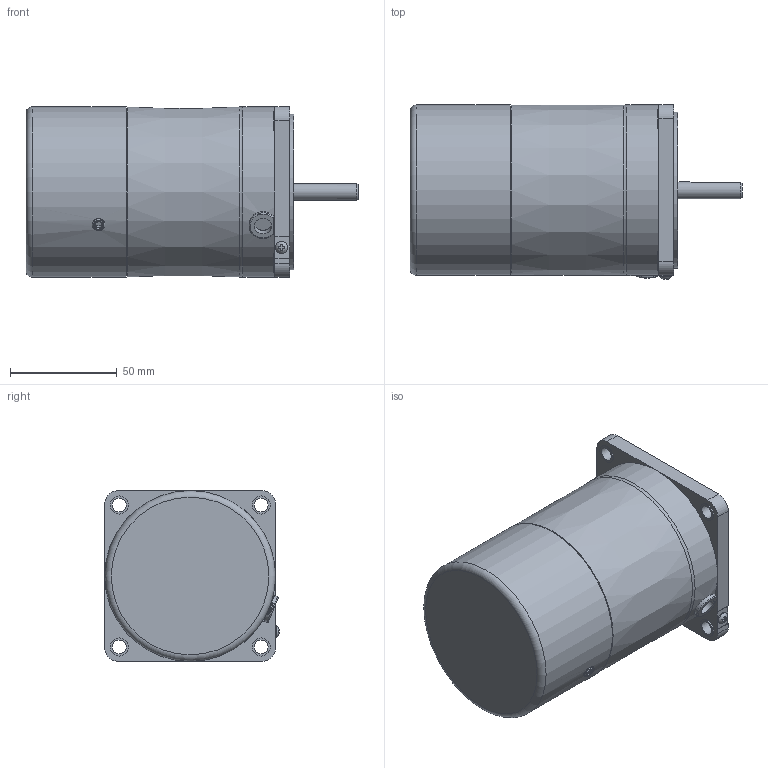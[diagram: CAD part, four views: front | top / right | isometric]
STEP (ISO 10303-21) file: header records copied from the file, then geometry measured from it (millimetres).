
FILE_DESCRIPTION(/* description */ (''),/* implementation_level */ '2;1');
FILE_NAME(/* name */ 'E:\도면작업\2016\0704) 미주향 SG 도면\3D MOTOR\ELECTROMAGNETIC BRAKE\SG8R(I)25K_-E.stp',/* time_stamp */ '2017-03-21T14:19:47+09:00',/* author */ ('jy-jung'),/* organization */ (''),/* preprocessor_version */ 'ST-DEVELOPER v15.6',/* originating_system */ 'Autodesk Inventor 2015',/* authorisation */ '');
FILE_SCHEMA (('AUTOMOTIVE_DESIGN { 1 0 10303 214 3 1 1 }'));
Length unit declared in the file: millimetre
Products named in the file (1): 부품23
Bounding box: 155.5 x 81.76 x 80 mm (x, y, z)
Volume: 622122.3 mm3; surface area: 47839.4 mm2
Topology: 1 solids, 2 shells, 120 faces, 283 edges, 187 vertices
Faces by surface type: plane 72, cylinder 39, torus 6, cone 2, bspline 1
Full cylindrical faces by diameter (mm): 3.1 x1, 4.6 x1, 5 x2, 5.6 x1, 6 x1, 6.5 x4, 8 x2, 8.5 x4, 34 x1, 73 x1, 78 x1, 79.8 x1, 80 x1
Entity records: 3638 total; most frequent: CARTESIAN_POINT 759, DIRECTION 563, ORIENTED_EDGE 506, EDGE_CURVE 253, AXIS2_PLACEMENT_3D 214, VERTEX_POINT 184, EDGE_LOOP 175, LINE 135
